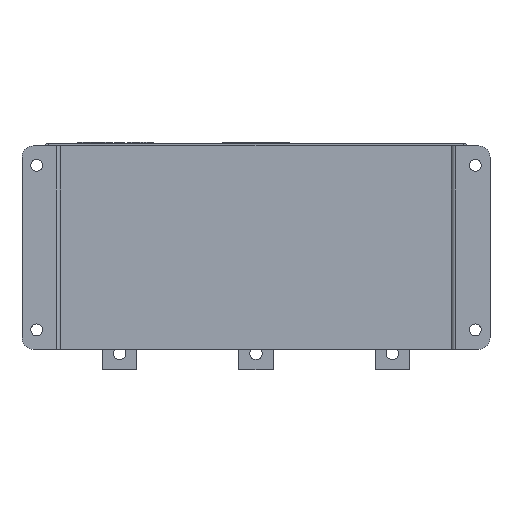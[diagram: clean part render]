
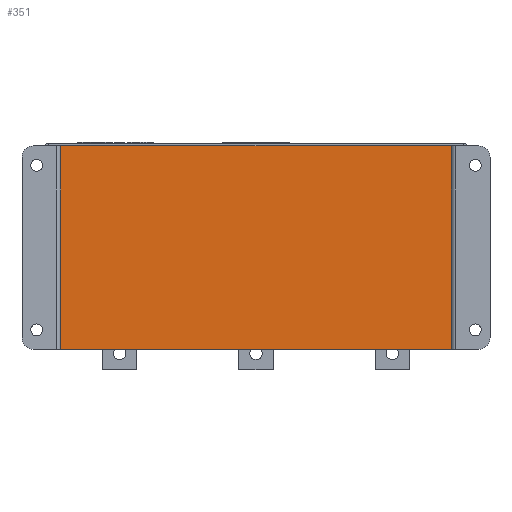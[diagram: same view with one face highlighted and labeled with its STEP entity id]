
A CAD part, front view. The second image highlights one B-rep face of the part: STEP entity #351.
In plain terms, the highlighted planar face has unit normal (0, -1, 0).
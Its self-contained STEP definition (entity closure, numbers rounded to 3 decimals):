
#351=ADVANCED_FACE('',(#2462),#2464,.T.);
#2462=FACE_OUTER_BOUND('',#2463,.T.);
#2463=EDGE_LOOP('',(#5849,#5850,#5851,#5852,#5853,#5854,#5855,#5856,#5857,#5858));
#2464=PLANE('',#2465);
#2465=AXIS2_PLACEMENT_3D('',#2466,#2467,#2468);
#2466=CARTESIAN_POINT('',(29.998,19.401,0.));
#2467=DIRECTION('',(0.,-1.,0.));
#2468=DIRECTION('',(0.,0.,-1.));
#5849=ORIENTED_EDGE('',*,*,#8022,.F.);
#5850=ORIENTED_EDGE('',*,*,#8023,.T.);
#5851=ORIENTED_EDGE('',*,*,#8024,.F.);
#5852=ORIENTED_EDGE('',*,*,#7869,.T.);
#5853=ORIENTED_EDGE('',*,*,#7683,.F.);
#5854=ORIENTED_EDGE('',*,*,#7864,.F.);
#5855=ORIENTED_EDGE('',*,*,#8020,.F.);
#5856=ORIENTED_EDGE('',*,*,#8025,.T.);
#5857=ORIENTED_EDGE('',*,*,#8026,.F.);
#5858=ORIENTED_EDGE('',*,*,#8027,.F.);
#7683=EDGE_CURVE('',#9432,#9434,#9435,.T.);
#7864=EDGE_CURVE('',#9703,#9432,#9705,.T.);
#7869=EDGE_CURVE('',#9710,#9434,#9713,.T.);
#8020=EDGE_CURVE('',#9986,#9703,#9988,.T.);
#8022=EDGE_CURVE('',#9990,#9991,#9992,.T.);
#8023=EDGE_CURVE('',#9990,#9993,#9994,.F.);
#8024=EDGE_CURVE('',#9710,#9993,#9995,.T.);
#8025=EDGE_CURVE('',#9986,#9996,#9997,.F.);
#8026=EDGE_CURVE('',#9998,#9996,#9999,.T.);
#8027=EDGE_CURVE('',#9991,#9998,#10000,.T.);
#9432=VERTEX_POINT('',#13641);
#9434=VERTEX_POINT('',#13645);
#9435=LINE('',#13646,#13647);
#9703=VERTEX_POINT('',#14304);
#9705=LINE('',#14308,#14309);
#9710=VERTEX_POINT('',#14319);
#9713=LINE('',#14326,#14327);
#9986=VERTEX_POINT('',#14930);
#9988=LINE('',#14934,#14935);
#9990=VERTEX_POINT('',#14940);
#9991=VERTEX_POINT('',#14941);
#9992=LINE('',#14942,#14943);
#9993=VERTEX_POINT('',#14945);
#9994=LINE('',#14946,#14947);
#9995=LINE('',#14949,#14950);
#9996=VERTEX_POINT('',#14952);
#9997=LINE('',#14953,#14954);
#9998=VERTEX_POINT('',#14956);
#9999=LINE('',#14957,#14958);
#10000=LINE('',#14960,#14961);
#13641=CARTESIAN_POINT('',(381.999,19.398,-179.));
#13645=CARTESIAN_POINT('',(381.999,19.398,-179.007));
#13646=CARTESIAN_POINT('',(381.999,19.398,-179.));
#13647=VECTOR('',#13648,1.);
#13648=DIRECTION('',(0.,0.,-1.));
#14304=CARTESIAN_POINT('',(378.997,19.398,-179.));
#14308=CARTESIAN_POINT('',(378.997,19.398,-179.));
#14309=VECTOR('',#14310,1.);
#14310=DIRECTION('',(1.,0.,0.));
#14319=CARTESIAN_POINT('',(31.998,19.398,-179.007));
#14326=CARTESIAN_POINT('',(31.998,19.398,-179.007));
#14327=VECTOR('',#14328,1.);
#14328=DIRECTION('',(1.,0.,0.));
#14930=CARTESIAN_POINT('',(378.997,19.402,0.));
#14934=CARTESIAN_POINT('',(378.997,19.402,0.));
#14935=VECTOR('',#14936,1.);
#14936=DIRECTION('',(0.,0.,-1.));
#14940=CARTESIAN_POINT('',(32.,19.401,0.));
#14941=CARTESIAN_POINT('',(32.,19.398,-179.));
#14942=CARTESIAN_POINT('',(32.,19.401,0.));
#14943=VECTOR('',#14944,1.);
#14944=DIRECTION('',(0.,0.,-1.));
#14945=CARTESIAN_POINT('',(31.998,19.401,0.));
#14946=CARTESIAN_POINT('',(31.998,19.401,0.));
#14947=VECTOR('',#14948,1.);
#14948=DIRECTION('',(1.,0.,0.));
#14949=CARTESIAN_POINT('',(31.998,19.398,-179.007));
#14950=VECTOR('',#14951,1.);
#14951=DIRECTION('',(0.,0.,1.));
#14952=CARTESIAN_POINT('',(35.,19.401,0.));
#14953=CARTESIAN_POINT('',(35.,19.401,0.));
#14954=VECTOR('',#14955,1.);
#14955=DIRECTION('',(1.,0.,0.));
#14956=CARTESIAN_POINT('',(35.,19.398,-179.));
#14957=CARTESIAN_POINT('',(35.,19.398,-179.));
#14958=VECTOR('',#14959,1.);
#14959=DIRECTION('',(0.,0.,1.));
#14960=CARTESIAN_POINT('',(32.,19.398,-179.));
#14961=VECTOR('',#14962,1.);
#14962=DIRECTION('',(1.,0.,0.));
